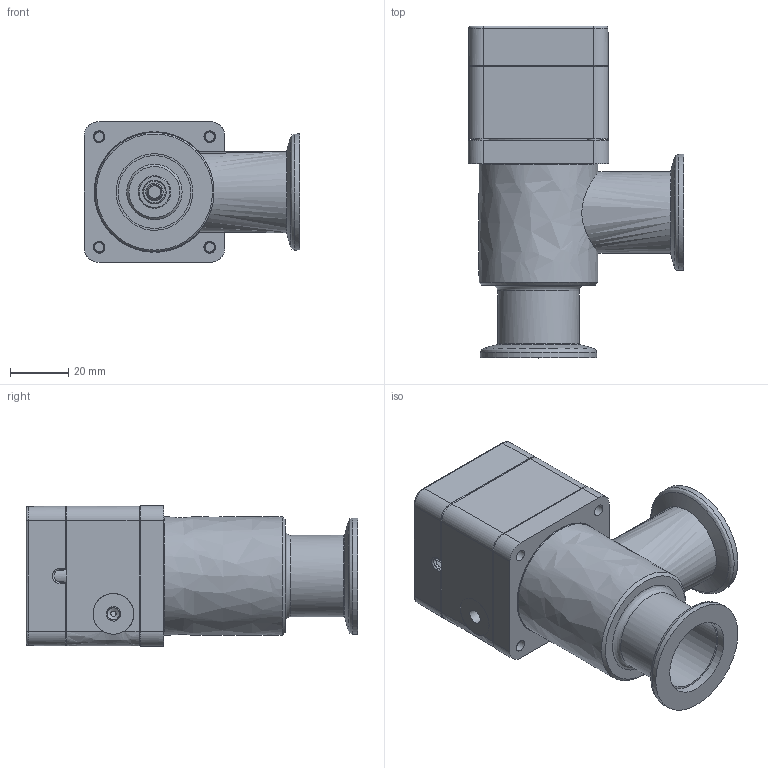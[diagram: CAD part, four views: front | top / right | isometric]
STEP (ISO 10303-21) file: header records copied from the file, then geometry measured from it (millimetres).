
FILE_DESCRIPTION((''),'2;1');
FILE_NAME('C:\TEMP\IDEAS\325549.stp','2006-09-19T15:33:02',('User'),( 'SDRC'),'I-DEAS Master Series 9','UNIX','Yes');
FILE_SCHEMA(('CONFIG_CONTROL_DESIGN'));
Length unit declared in the file: millimetre
Assembly tree (14 placements, depth 0):
Bounding box: 74.2 x 114 x 48.4 mm (x, y, z)
Volume: 79727.2 mm3; surface area: 64106 mm2
Topology: 20 solids, 20 shells, 517 faces, 1264 edges, 812 vertices
Faces by surface type: bspline 517
Entity records: 16819 total; most frequent: CARTESIAN_POINT 8753, ORIENTED_EDGE 2216, EDGE_CURVE 1108, VERTEX_POINT 713, EDGE_LOOP 513, FACE_OUTER_BOUND 442, ADVANCED_FACE 442, QUASI_UNIFORM_CURVE 389
